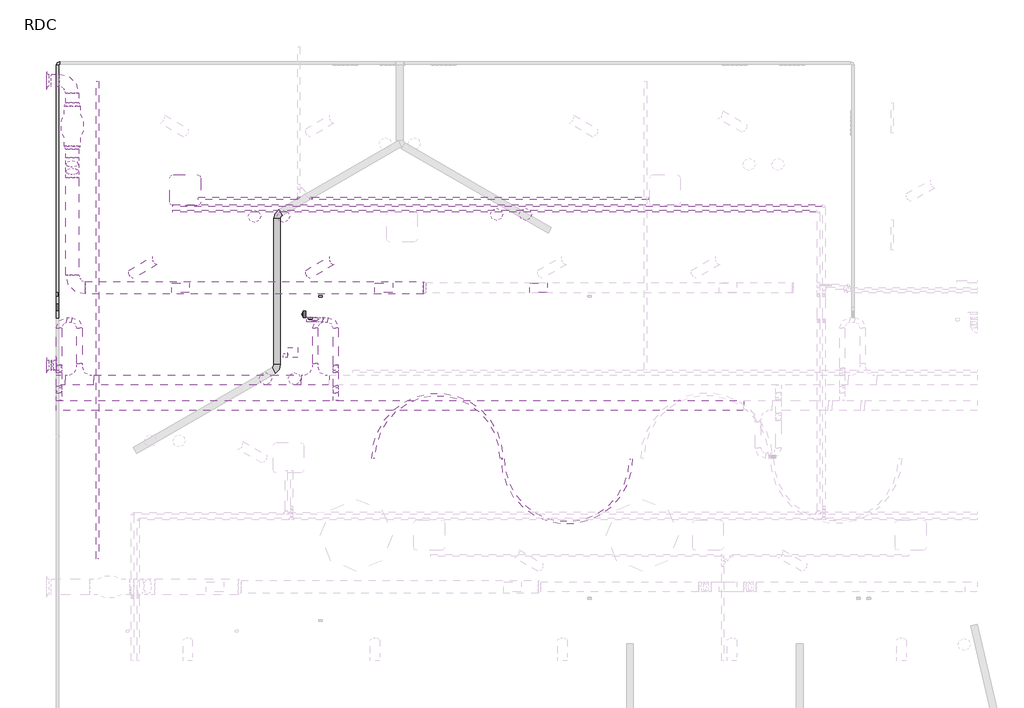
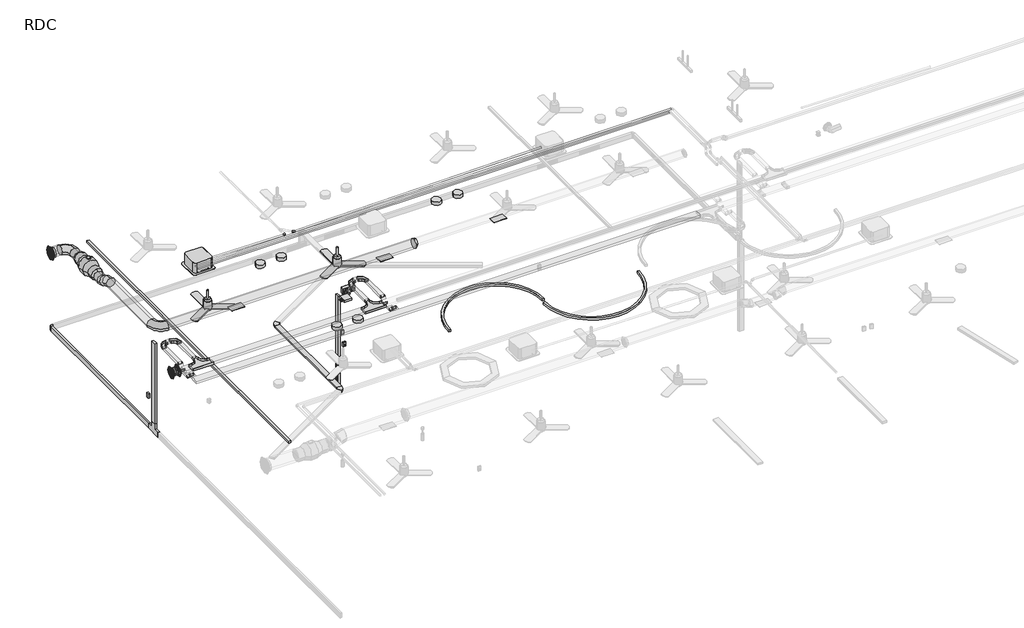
# One storey, part 3 of 15: 17 cable carrier segments, 14 cable carrier fittings, 14 proxies, 11 duct fittings, 11 duct segments, 11 light fixtures, 6 air terminals, 4 pipe segments, 3 other elements.
"""IFC4 building model written with IfcOpenShell, lengths in millimetres."""

from ifc_helpers import new_model, si_unit, point, frame, frame_2d, origin, origin_with_axes, place, context, project, spatial, polyline, circle_curve, trimmed, segment, composite_curve, outline, extrude, transform, mapped, element, save
from components import air_terminal_8fbfe4fd, air_terminal_f661baf0, air_terminal_83240a47, air_terminal_300x150_ce1732d7, alarm_ff25f4bb, electrical_fixtures_a85d9f51, electrical_fixtures_1c8db3b3, electrical_fixtures_b5335298, electrical_fixtures_3a4acf06, mechanical_equipment_63d25aae, mechanical_equipment_4a9d14a3, cassette_600x600_07ba985d, cable_carrier_fitting_150mm_radius_0ad93986, cable_carrier_fitting_150mm_radius_438d9341, standaard_2330e57b, standaard_15b901d2, standaard_b1635a4a, standaard_70577946, standaard_6054fbdd, standaard_b9184b4d, coude_circulaire_1_d_bb9ff7a8, coude_circulaire_1_d_a3c698fd, coude_rectangulaire_rayon_1_w_45743452, coude_rectangulaire_rayon_1_w_6ce379fa, standard_e141fede, transformation_ronde_longueur_standard_073085e4, transformation_ronde_longueur_standard_5c39a686, light_fixture_d6a2bba2, light_fixture_92202950, ai_luminaire_concept_s_angle_d93a71be, ai_luminaire_spot_downlight_a3_0014797d, plafond_a018df44, standard_715b0e56, standard_fb91f736

model = new_model("IFC4")

# Units and contexts
model_context = context("Model", 3, world=origin())
ifc_project = project(units=[si_unit("LENGTHUNIT", "METRE", prefix="MILLI")], contexts=[model_context])

# Site, building, storey
site = spatial("IfcSite", under=ifc_project)
building = spatial("IfcBuilding", under=site)
storey = spatial("IfcBuildingStorey", under=building, Name="RDC", Elevation=0.0)

# Air terminals
placement = place(None, origin())
air_terminal_shape = air_terminal_8fbfe4fd(model_context)
element("IfcAirTerminal", 1, ObjectType="AI_Bouche aération_Circulaire Soufflage : ø200 mm", at=placement, inside=storey, context=model_context, shape_type="MappedRepresentation", body=[
    mapped(air_terminal_shape, transform((6183.0055238, 8688.1987776, 2675.0), x_axis=(0.0, -1.0, 0.0), y_axis=(0.0, 0.0, -1.0), z_axis=(1.0, 0.0, 0.0))),
])
air_terminal_2_shape = air_terminal_f661baf0(model_context)
air_terminal_3_shape = air_terminal_83240a47(model_context)
element("IfcAirTerminal", 2, ObjectType="AI_Bouche aération_Circulaire Reprise : ø250 mm", at=placement, inside=storey, context=model_context, shape_type="MappedRepresentation", body=[
    mapped(air_terminal_2_shape, transform((6183.0055244, 14249.5897086, 2675.0), x_axis=(0.0, 0.0, 1.0), y_axis=(0.0, -1.0, 0.0), z_axis=(1.0, 0.0, 0.0))),
    mapped(air_terminal_3_shape, transform((6183.0055244, 14249.5897086, 2675.0), x_axis=(0.0, 0.0, 1.0), y_axis=(0.0, -1.0, 0.0), z_axis=(1.0, 0.0, 0.0))),
])
element("IfcAirTerminal", 3, ObjectType="AI_Bouche aération_Circulaire Extraction : ø200 mm", at=placement, inside=storey, context=model_context, shape_type="MappedRepresentation", body=[
    mapped(air_terminal_shape, transform((6363.0055219, 8688.1987776, 2675.0), x_axis=(0.0, 0.0, 1.0), y_axis=(0.0, 1.0, 0.0), z_axis=(-1.0, 0.0, 0.0))),
])
air_terminal_300x150_shape = air_terminal_300x150_ce1732d7(model_context)
element("IfcAirTerminal", 4, ObjectType="AI_Bouche aération_Grille de soufflage rectangulaire sur gaine : 300x150", at=placement, inside=storey, context=model_context, shape_type="MappedRepresentation", body=[
    mapped(air_terminal_300x150_shape, transform((8796.0685057, 10202.3417334, 2700.0), x_axis=(0.0, 1.0, 0.0), y_axis=(-1.0, 0.0, 0.0), z_axis=(0.0, 0.0, 1.0))),
])
element("IfcAirTerminal", 5, ObjectType="AI_Bouche aération_Grille de soufflage rectangulaire sur gaine : 300x150", at=placement, inside=storey, context=model_context, shape_type="MappedRepresentation", body=[
    mapped(air_terminal_300x150_shape, transform((15774.9639686, 10202.3417334, 2750.0), x_axis=(0.0, 1.0, 0.0), y_axis=(-1.0, 0.0, 0.0), z_axis=(0.0, 0.0, 1.0))),
])
element("IfcAirTerminal", 6, ObjectType="AI_Bouche aération_Grille de soufflage rectangulaire sur gaine : 300x150", at=placement, inside=storey, context=model_context, shape_type="MappedRepresentation", body=[
    mapped(air_terminal_300x150_shape, transform((12758.3677314, 10202.3417334, 2700.0), x_axis=(0.0, 1.0, 0.0), y_axis=(-1.0, 0.0, 0.0), z_axis=(0.0, 0.0, 1.0))),
])

# Alarm
alarm_shape = alarm_ff25f4bb(model_context)
element("IfcAlarm", 7, ObjectType="AI_Incendie_Alarme incendie : Diffuseur sonore", at=placement, inside=storey, context=model_context, shape_type="MappedRepresentation", body=[
    mapped(alarm_shape, transform((11418.6802318, 9619.3027165, 2529.5993522), x_axis=(-1.0, 0.0, 0.0), y_axis=(0.0, -1.0, 0.0), z_axis=(0.0, 0.0, 1.0))),
])

# Proxies
electrical_fixtures_shape = electrical_fixtures_a85d9f51(model_context)
element("IfcBuildingElementProxy", 8, Name="AI_Instal elec_Prise RJ45 : RJ 45 Murale", ObjectType="AI_Instal elec_Prise RJ45 : RJ 45 Murale", at=placement, inside=storey, context=model_context, shape_type="MappedRepresentation", body=[
    mapped(electrical_fixtures_shape, transform((11183.0661525, 9684.3027164, 150.0), x_axis=(0.0, -1.0, 0.0), y_axis=(1.0, 0.0, 0.0), z_axis=(0.0, 0.0, 1.0))),
])
element("IfcBuildingElementProxy", 9, Name="AI_Instal elec_Prise RJ45 : RJ 45 Murale", ObjectType="AI_Instal elec_Prise RJ45 : RJ 45 Murale", at=placement, inside=storey, context=model_context, shape_type="MappedRepresentation", body=[
    mapped(electrical_fixtures_shape, transform((11183.0661525, 9684.3027164, 235.0), x_axis=(0.0, -1.0, 0.0), y_axis=(1.0, 0.0, 0.0), z_axis=(0.0, 0.0, 1.0))),
])
electrical_fixtures_2_shape = electrical_fixtures_1c8db3b3(model_context)
element("IfcBuildingElementProxy", 10, Name="AI_Instal elec_PC 16A +T à 0,30m : PC 16A +T à 0,30m", ObjectType="AI_Instal elec_PC 16A +T à 0,30m : PC 16A +T à 0,30m", at=placement, inside=storey, context=model_context, shape_type="MappedRepresentation", body=[
    mapped(electrical_fixtures_2_shape, transform((11183.0661525, 9684.3027164, 575.0), x_axis=(0.0, -1.0, 0.0), y_axis=(1.0, 0.0, 0.0), z_axis=(0.0, 0.0, 1.0))),
])
element("IfcBuildingElementProxy", 11, Name="AI_Instal elec_PC 16A +T à 0,30m : PC 16A +T à 0,30m", ObjectType="AI_Instal elec_PC 16A +T à 0,30m : PC 16A +T à 0,30m", at=placement, inside=storey, context=model_context, shape_type="MappedRepresentation", body=[
    mapped(electrical_fixtures_2_shape, transform((11183.0661525, 9684.3027164, 490.0), x_axis=(0.0, -1.0, 0.0), y_axis=(1.0, 0.0, 0.0), z_axis=(0.0, 0.0, 1.0))),
])
element("IfcBuildingElementProxy", 12, Name="AI_Instal elec_Prise de courant 2P+T 16A ondulée : AI_Instal elec_Prise de courant 2P+T 16A ondulée", ObjectType="AI_Instal elec_Prise de courant 2P+T 16A ondulée : AI_Instal elec_Prise de courant 2P+T 16A ondulée", at=placement, inside=storey, context=model_context, shape_type="MappedRepresentation", body=[
    mapped(electrical_fixtures_2_shape, transform((11183.0661525, 9684.3027164, 405.0), x_axis=(0.0, -1.0, 0.0), y_axis=(1.0, 0.0, 0.0), z_axis=(0.0, 0.0, 1.0))),
])
element("IfcBuildingElementProxy", 13, Name="AI_Instal elec_Prise de courant 2P+T 16A ondulée : AI_Instal elec_Prise de courant 2P+T 16A ondulée", ObjectType="AI_Instal elec_Prise de courant 2P+T 16A ondulée : AI_Instal elec_Prise de courant 2P+T 16A ondulée", at=placement, inside=storey, context=model_context, shape_type="MappedRepresentation", body=[
    mapped(electrical_fixtures_2_shape, transform((11183.0661525, 9684.3027164, 320.0), x_axis=(0.0, -1.0, 0.0), y_axis=(1.0, 0.0, 0.0), z_axis=(0.0, 0.0, 1.0))),
])
electrical_fixtures_3_shape = electrical_fixtures_b5335298(model_context)
element("IfcBuildingElementProxy", 14, Name="AI_Instal elec_Prise RJ45 : RJ45 Plafonnière", ObjectType="AI_Instal elec_Prise RJ45 : RJ45 Plafonnière", at=placement, inside=storey, context=model_context, shape_type="MappedRepresentation", body=[
    mapped(electrical_fixtures_3_shape, transform((10838.1441218, 8835.5591373, 2980.0), x_axis=(-1.0, 0.0, 0.0), y_axis=(0.0, -1.0, 0.0), z_axis=(0.0, 0.0, 1.0))),
])
electrical_fixtures_4_shape = electrical_fixtures_3a4acf06(model_context)
element("IfcBuildingElementProxy", 15, Name="AI_Instal elec_Brasseur d'air : AI_Instal elec_Brasseur d'air", ObjectType="AI_Instal elec_Brasseur d'air : AI_Instal elec_Brasseur d'air", at=placement, inside=storey, context=model_context, shape_type="MappedRepresentation", body=[
    mapped(electrical_fixtures_4_shape, transform((11815.489218, 10773.1375381, 2500.0), x_axis=(1.0, 0.0, 0.0), y_axis=(0.0, 1.0, 0.0), z_axis=(0.0, 0.0, 1.0))),
])
element("IfcBuildingElementProxy", 16, Name="AI_Instal elec_Brasseur d'air : AI_Instal elec_Brasseur d'air", ObjectType="AI_Instal elec_Brasseur d'air : AI_Instal elec_Brasseur d'air", at=placement, inside=storey, context=model_context, shape_type="MappedRepresentation", body=[
    mapped(electrical_fixtures_4_shape, transform((8363.1634071, 10773.1375381, 2500.0), x_axis=(1.0, 0.0, 0.0), y_axis=(0.0, 1.0, 0.0), z_axis=(0.0, 0.0, 1.0))),
])
mechanical_equipment_shape = mechanical_equipment_63d25aae(model_context)
element("IfcBuildingElementProxy", 17, Name="AI_Eqpmt genie clim_Canalfast 315 : AI_Eqpmt genie clim_Canalfast 315", ObjectType="AI_Eqpmt genie clim_Canalfast 315 : AI_Eqpmt genie clim_Canalfast 315", at=placement, inside=storey, context=model_context, shape_type="MappedRepresentation", body=[
    mapped(mechanical_equipment_shape, transform((6679.0766079, 13360.3190675, 2675.0), x_axis=(0.0, -1.0, 0.0), y_axis=(1.0, 0.0, 0.0), z_axis=(0.0, 0.0, 1.0))),
])
mechanical_equipment_2_shape = mechanical_equipment_4a9d14a3(model_context)
element("IfcBuildingElementProxy", 18, Name="AI_Eqpmt genie clim_Commande murale Clim : Commande murale Clim", ObjectType="AI_Eqpmt genie clim_Commande murale Clim : Commande murale Clim", at=placement, inside=storey, context=model_context, shape_type="MappedRepresentation", body=[
    mapped(mechanical_equipment_2_shape, transform((11522.9752017, 10019.3027165, 1130.0), x_axis=(1.0, 0.0, 0.0), y_axis=(0.0, 1.0, 0.0), z_axis=(0.0, 0.0, 1.0))),
])
element("IfcBuildingElementProxy", 19, Name="AI_Eqpmt genie clim_Commande murale Clim : Commande murale Clim", ObjectType="AI_Eqpmt genie clim_Commande murale Clim : Commande murale Clim", at=placement, inside=storey, context=model_context, shape_type="MappedRepresentation", body=[
    mapped(mechanical_equipment_2_shape, transform((6363.0667618, 10074.9679544, 1130.0), x_axis=(0.0, -1.0, 0.0), y_axis=(1.0, 0.0, 0.0), z_axis=(0.0, 0.0, 1.0))),
])
element("IfcBuildingElementProxy", 20, Name="AI_Eqpmt genie clim_Commande murale Clim : Commande murale Clim", ObjectType="AI_Eqpmt genie clim_Commande murale Clim : Commande murale Clim", at=placement, inside=storey, context=model_context, shape_type="MappedRepresentation", body=[
    mapped(mechanical_equipment_2_shape, transform((11323.0358355, 9619.3027164, 1130.0), x_axis=(-1.0, 0.0, 0.0), y_axis=(0.0, -1.0, 0.0), z_axis=(0.0, 0.0, 1.0))),
])
cassette_600x600_shape = cassette_600x600_07ba985d(model_context)
element("IfcBuildingElementProxy", 21, Name="AI_Eqpmt genie clim_Cassette plafonnière : Cassette 600x600", ObjectType="AI_Eqpmt genie clim_Cassette plafonnière : Cassette 600x600", at=placement, inside=storey, context=model_context, shape_type="MappedRepresentation", body=[
    mapped(cassette_600x600_shape, transform((8017.2942225, 12897.391148, 2680.0), x_axis=(1.0, 0.0, 0.0), y_axis=(0.0, 1.0, 0.0), z_axis=(0.0, 0.0, 1.0))),
])

# Cable carrier fittings
cable_carrier_fitting_150mm_radius_shape = cable_carrier_fitting_150mm_radius_0ad93986(model_context)
element("IfcCableCarrierFitting", 22, ObjectType="AI_Raccord cdc_Té : 150mm Radius", at=placement, inside=storey, context=model_context, shape_type="MappedRepresentation", body=[
    mapped(cable_carrier_fitting_150mm_radius_shape, transform((6821.676602, 8402.2308907, 2856.9968882), x_axis=(-1.0, 0.0, 0.0), y_axis=(0.0, -1.0, 0.0), z_axis=(0.0, 0.0, 1.0))),
])
cable_carrier_fitting_150mm_radius_2_shape = cable_carrier_fitting_150mm_radius_438d9341(model_context)
element("IfcCableCarrierFitting", 23, ObjectType="AI_Raccord cdc_Té : 150mm Radius", at=placement, inside=storey, context=model_context, shape_type="MappedRepresentation", body=[
    mapped(cable_carrier_fitting_150mm_radius_2_shape, transform((11418.6802318, 8402.2308907, 2856.9968882), x_axis=(1.0, 0.0, 0.0), y_axis=(0.0, 1.0, 0.0), z_axis=(0.0, 0.0, 1.0))),
])
standaard_shape = standaard_2330e57b(model_context)
element("IfcCableCarrierFitting", 24, ObjectType="AI_Raccord cdc_Coude desencdant : standaard", at=placement, inside=storey, context=model_context, shape_type="MappedRepresentation", body=[
    mapped(standaard_shape, transform((6421.676602, 8678.568422, 2856.9968882), x_axis=(0.0, -1.0, 0.0), y_axis=(0.0, 0.0, -1.0), z_axis=(1.0, 0.0, 0.0))),
])
element("IfcCableCarrierFitting", 25, ObjectType="AI_Raccord cdc_Coude desencdant : standaard", at=placement, inside=storey, context=model_context, shape_type="MappedRepresentation", body=[
    mapped(standaard_shape, transform((6421.676602, 8159.3743728, 2856.9968882), x_axis=(0.0, -0.7071067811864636, 0.7071067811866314), y_axis=(0.0, -0.7071067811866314, -0.7071067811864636), z_axis=(1.0, 0.0, 0.0))),
])
element("IfcCableCarrierFitting", 26, ObjectType="AI_Raccord cdc_Coude desencdant : standaard", at=placement, inside=storey, context=model_context, shape_type="MappedRepresentation", body=[
    mapped(standaard_shape, transform((11818.6802318, 8159.3743728, 2856.9968882), x_axis=(0.0, -0.7071067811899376, 0.7071067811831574), y_axis=(0.0, -0.7071067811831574, -0.7071067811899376), z_axis=(1.0, 0.0, 0.0))),
])
standaard_2_shape = standaard_15b901d2(model_context)
element("IfcCableCarrierFitting", 27, ObjectType="AI_Raccord cdc_Coude montant : standaard", at=placement, inside=storey, context=model_context, shape_type="MappedRepresentation", body=[
    mapped(standaard_2_shape, transform((6421.676602, 8565.431337, 2743.8598032), x_axis=(0.0, -0.7071067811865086, -0.7071067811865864), y_axis=(0.0, -0.7071067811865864, 0.7071067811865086), z_axis=(-1.0, 0.0, 0.0))),
])
element("IfcCableCarrierFitting", 28, ObjectType="AI_Raccord cdc_Coude montant : standaard", at=placement, inside=storey, context=model_context, shape_type="MappedRepresentation", body=[
    mapped(standaard_2_shape, transform((6421.676602, 8272.5114578, 2743.8598032), x_axis=(0.0, -1.0, 0.0), y_axis=(0.0, 0.0, 1.0), z_axis=(-1.0, 0.0, 0.0))),
])
standaard_3_shape = standaard_b1635a4a(model_context)
element("IfcCableCarrierFitting", 29, ObjectType="AI_Raccord cdc_Coude horizontal rayon court : standaard", at=placement, inside=storey, context=model_context, shape_type="MappedRepresentation", body=[
    mapped(standaard_3_shape, transform((6421.676602, 9569.3027165, 2856.9968882), x_axis=(-1.0, 0.0, 0.0), y_axis=(0.0, -1.0, 0.0), z_axis=(0.0, 0.0, 1.0))),
])
element("IfcCableCarrierFitting", 30, ObjectType="AI_Raccord cdc_Coude horizontal rayon court : standaard", at=placement, inside=storey, context=model_context, shape_type="MappedRepresentation", body=[
    mapped(standaard_3_shape, transform((6821.676602, 9569.3027165, 2856.9968882), x_axis=(0.0, 1.0, 0.0), y_axis=(-1.0, 0.0, 0.0), z_axis=(0.0, 0.0, 1.0))),
])
standaard_4_shape = standaard_70577946(model_context)
element("IfcCableCarrierFitting", 31, ObjectType="AI_Raccord cdc_Coude desencdant : standaard", at=placement, inside=storey, context=model_context, shape_type="MappedRepresentation", body=[
    mapped(standaard_4_shape, transform((11818.6802318, 8678.568422, 2856.9968882), x_axis=(0.0, -1.0, 0.0), y_axis=(0.0, 0.0, 1.0), z_axis=(-1.0, 0.0, 0.0))),
])
standaard_5_shape = standaard_6054fbdd(model_context)
element("IfcCableCarrierFitting", 32, ObjectType="AI_Raccord cdc_Coude montant : standaard", at=placement, inside=storey, context=model_context, shape_type="MappedRepresentation", body=[
    mapped(standaard_5_shape, transform((11818.6802318, 8565.431337, 2743.8598032), x_axis=(0.0, -0.7071067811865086, -0.7071067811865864), y_axis=(0.0, 0.7071067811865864, -0.7071067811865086), z_axis=(1.0, 0.0, 0.0))),
])
element("IfcCableCarrierFitting", 33, ObjectType="AI_Raccord cdc_Coude montant : standaard", at=placement, inside=storey, context=model_context, shape_type="MappedRepresentation", body=[
    mapped(standaard_5_shape, transform((11818.6802318, 8272.5114578, 2743.8598032), x_axis=(0.0, -1.0, 0.0), y_axis=(0.0, 0.0, -1.0), z_axis=(1.0, 0.0, 0.0))),
])
standaard_6_shape = standaard_b9184b4d(model_context)
element("IfcCableCarrierFitting", 34, ObjectType="AI_Raccord cdc_Coude horizontal rayon court : standaard", at=placement, inside=storey, context=model_context, shape_type="MappedRepresentation", body=[
    mapped(standaard_6_shape, transform((11818.6802318, 9569.3027165, 2856.9968882), x_axis=(1.0, 0.0, 0.0), y_axis=(0.0, 1.0, 0.0), z_axis=(0.0, 0.0, 1.0))),
])
element("IfcCableCarrierFitting", 35, ObjectType="AI_Raccord cdc_Coude horizontal rayon court : standaard", at=placement, inside=storey, context=model_context, shape_type="MappedRepresentation", body=[
    mapped(standaard_6_shape, transform((11418.6802318, 9569.3027165, 2856.9968882), x_axis=(0.0, 1.0, 0.0), y_axis=(-1.0, 0.0, 0.0), z_axis=(0.0, 0.0, 1.0))),
])

# Cable carrier segments
element("IfcCableCarrierSegment", 36, ObjectType="Par défaut", at=placement, inside=storey, context=model_context, shape_type="SweptSolid", body=[
    extrude(outline(polyline([(6546.676602, 8502.2308907), (6546.676602, 8302.2308907), (6363.0055219, 8302.2308907), (6363.0055219, 8502.2308907), (6546.676602, 8502.2308907)])), frame((0.0, 0.0, 2826.9968882), z_axis=(0.0, 0.0, 1.0), x_axis=(1.0, 0.0, 0.0)), (0.0, 0.0, 1.0), 60.0),
])
element("IfcCableCarrierSegment", 37, ObjectType="Par défaut", at=placement, inside=storey, context=model_context, shape_type="SweptSolid", body=[
    extrude(outline(polyline([(19787.4237892, 8002.2308907), (19787.4237892, 7802.2308907), (6363.0055219, 7802.2308907), (6363.0055219, 8002.2308907), (19787.4237892, 8002.2308907)])), frame((0.0, 0.0, 2826.9968882), z_axis=(0.0, 0.0, 1.0), x_axis=(1.0, 0.0, 0.0)), (0.0, 0.0, 1.0), 60.0),
])
element("IfcCableCarrierSegment", 38, ObjectType="Par défaut", at=placement, inside=storey, context=model_context, shape_type="SweptSolid", body=[
    extrude(outline(polyline([(6771.676602, 9418.3027165), (6871.676602, 9418.3027165), (6871.676602, 8727.2308907), (6771.676602, 8727.2308907), (6771.676602, 9418.3027165)])), frame((0.0, 0.0, 2826.9968882), z_axis=(0.0, 0.0, 1.0), x_axis=(1.0, 0.0, 0.0)), (0.0, 0.0, 1.0), 60.0),
])
element("IfcCableCarrierSegment", 39, ObjectType="Par défaut", at=placement, inside=storey, context=model_context, shape_type="SweptSolid", body=[
    extrude(outline(polyline([(6371.676602, 9418.3027165), (6471.676602, 9418.3027165), (6471.676602, 8692.4090424), (6371.676602, 8692.4090424), (6371.676602, 9418.3027165)])), frame((0.0, 0.0, 2826.9968882), z_axis=(0.0, 0.0, 1.0), x_axis=(1.0, 0.0, 0.0)), (0.0, 0.0, 1.0), 60.0),
])
element("IfcCableCarrierSegment", 40, ObjectType="Par défaut", at=placement, inside=storey, context=model_context, shape_type="SweptSolid", body=[
    extrude(outline(polyline([(-50.0, -28.3095189), (50.0, -28.3095189), (50.0, -88.3095189), (-50.0, -88.3095189), (-50.0, -28.3095189)])), frame((6421.676602, 8616.4491898, 2712.4155436), z_axis=(0.0, 0.7071067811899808, 0.7071067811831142), x_axis=(1.0, 0.0, 0.0)), (0.0, 0.0, 1.0), 132.3187591),
])
element("IfcCableCarrierSegment", 41, ObjectType="Par défaut", at=placement, inside=storey, context=model_context, shape_type="SweptSolid", body=[
    extrude(outline(polyline([(6371.676602, 8551.5907166), (6471.676602, 8551.5907166), (6471.676602, 8286.3520782), (6371.676602, 8286.3520782), (6371.676602, 8551.5907166)])), frame((0.0, 0.0, 2713.8598032), z_axis=(0.0, 0.0, 1.0), x_axis=(1.0, 0.0, 0.0)), (0.0, 0.0, 1.0), 60.0),
])
element("IfcCableCarrierSegment", 42, ObjectType="Par défaut", at=placement, inside=storey, context=model_context, shape_type="SweptSolid", body=[
    extrude(outline(polyline([(0.0, -100.0), (0.0, 0.0), (132.3187591, 0.0), (132.3187591, -100.0), (0.0, -100.0)])), frame((6471.676602, 8241.5114578, 2732.4333964), z_axis=(0.0, 0.7071067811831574, 0.7071067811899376), x_axis=(0.0, -0.7071067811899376, 0.7071067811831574)), (0.0, 0.0, 1.0), 60.0),
])
element("IfcCableCarrierSegment", 43, ObjectType="Par défaut", at=placement, inside=storey, context=model_context, shape_type="SweptSolid", body=[
    extrude(outline(polyline([(6371.676602, 8145.5337524), (6471.676602, 8145.5337524), (6471.676602, 8002.2308907), (6371.676602, 8002.2308907), (6371.676602, 8145.5337524)])), frame((0.0, 0.0, 2826.9968882), z_axis=(0.0, 0.0, 1.0), x_axis=(1.0, 0.0, 0.0)), (0.0, 0.0, 1.0), 60.0),
])
element("IfcCableCarrierSegment", 44, ObjectType="Par défaut", at=placement, inside=storey, context=model_context, shape_type="SweptSolid", body=[
    extrude(outline(polyline([(6572.676602, 9519.3027165), (6572.676602, 9619.3027165), (6670.676602, 9619.3027165), (6670.676602, 9519.3027165), (6572.676602, 9519.3027165)])), frame((0.0, 0.0, 2826.9968882), z_axis=(0.0, 0.0, 1.0), x_axis=(1.0, 0.0, 0.0)), (0.0, 0.0, 1.0), 60.0),
])
element("IfcCableCarrierSegment", 45, ObjectType="Par défaut", at=placement, inside=storey, context=model_context, shape_type="SweptSolid", body=[
    extrude(outline(polyline([(7096.676602, 8302.2308907), (7096.676602, 8502.2308907), (11143.6802318, 8502.2308907), (11143.6802318, 8302.2308907), (7096.676602, 8302.2308907)])), frame((0.0, 0.0, 2826.9968882), z_axis=(0.0, 0.0, 1.0), x_axis=(1.0, 0.0, 0.0)), (0.0, 0.0, 1.0), 60.0),
])
element("IfcCableCarrierSegment", 46, ObjectType="Par défaut", at=placement, inside=storey, context=model_context, shape_type="SweptSolid", body=[
    extrude(outline(polyline([(11368.6802318, 9418.3027165), (11468.6802318, 9418.3027165), (11468.6802318, 8727.2308907), (11368.6802318, 8727.2308907), (11368.6802318, 9418.3027165)])), frame((0.0, 0.0, 2826.9968882), z_axis=(0.0, 0.0, 1.0), x_axis=(1.0, 0.0, 0.0)), (0.0, 0.0, 1.0), 60.0),
])
element("IfcCableCarrierSegment", 47, ObjectType="Par défaut", at=placement, inside=storey, context=model_context, shape_type="SweptSolid", body=[
    extrude(outline(polyline([(11768.6802318, 9418.3027165), (11868.6802318, 9418.3027165), (11868.6802318, 8692.4090424), (11768.6802318, 8692.4090424), (11768.6802318, 9418.3027165)])), frame((0.0, 0.0, 2826.9968882), z_axis=(0.0, 0.0, 1.0), x_axis=(1.0, 0.0, 0.0)), (0.0, 0.0, 1.0), 60.0),
])
element("IfcCableCarrierSegment", 48, ObjectType="Par défaut", at=placement, inside=storey, context=model_context, shape_type="SweptSolid", body=[
    extrude(outline(polyline([(-50.0, -28.3095189), (50.0, -28.3095189), (50.0, -88.3095189), (-50.0, -88.3095189), (-50.0, -28.3095189)])), frame((11818.6802318, 8616.4491898, 2712.4155436), z_axis=(0.0, 0.7071067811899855, 0.7071067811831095), x_axis=(1.0, 0.0, 0.0)), (0.0, 0.0, 1.0), 132.3187591),
])
element("IfcCableCarrierSegment", 49, ObjectType="Par défaut", at=placement, inside=storey, context=model_context, shape_type="SweptSolid", body=[
    extrude(outline(polyline([(11768.6802318, 8551.5907166), (11868.6802318, 8551.5907166), (11868.6802318, 8286.3520782), (11768.6802318, 8286.3520782), (11768.6802318, 8551.5907166)])), frame((0.0, 0.0, 2713.8598032), z_axis=(0.0, 0.0, 1.0), x_axis=(1.0, 0.0, 0.0)), (0.0, 0.0, 1.0), 60.0),
])
element("IfcCableCarrierSegment", 50, ObjectType="Par défaut", at=placement, inside=storey, context=model_context, shape_type="SweptSolid", body=[
    extrude(outline(polyline([(0.0, -100.0), (0.0, 0.0), (132.3187591, 0.0), (132.3187591, -100.0), (0.0, -100.0)])), frame((11868.6802318, 8241.5114578, 2732.4333964), z_axis=(0.0, 0.7071067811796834, 0.7071067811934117), x_axis=(0.0, -0.7071067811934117, 0.7071067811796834)), (0.0, 0.0, 1.0), 60.0),
])
element("IfcCableCarrierSegment", 51, ObjectType="Par défaut", at=placement, inside=storey, context=model_context, shape_type="SweptSolid", body=[
    extrude(outline(polyline([(11768.6802318, 8145.5337524), (11868.6802318, 8145.5337524), (11868.6802318, 8002.2308907), (11768.6802318, 8002.2308907), (11768.6802318, 8145.5337524)])), frame((0.0, 0.0, 2826.9968882), z_axis=(0.0, 0.0, 1.0), x_axis=(1.0, 0.0, 0.0)), (0.0, 0.0, 1.0), 60.0),
])
element("IfcCableCarrierSegment", 52, ObjectType="Par défaut", at=placement, inside=storey, context=model_context, shape_type="SweptSolid", body=[
    extrude(outline(polyline([(11667.6802318, 9619.3027165), (11667.6802318, 9519.3027165), (11569.6802318, 9519.3027165), (11569.6802318, 9619.3027165), (11667.6802318, 9619.3027165)])), frame((0.0, 0.0, 2826.9968882), z_axis=(0.0, 0.0, 1.0), x_axis=(1.0, 0.0, 0.0)), (0.0, 0.0, 1.0), 60.0),
])

# Duct fittings
coude_circulaire_1_d_shape = coude_circulaire_1_d_bb9ff7a8(model_context)
element("IfcDuctFitting", 53, ObjectType="Coude circulaire : 1 D", at=placement, inside=storey, context=model_context, shape_type="MappedRepresentation", body=[
    mapped(coude_circulaire_1_d_shape, transform((6679.0766079, 12415.7696038, 2825.0), x_axis=(0.0, 1.0, 0.0), y_axis=(0.0, 0.0, -1.0), z_axis=(-1.0, 0.0, 0.0))),
])
element("IfcDuctFitting", 54, ObjectType="Coude circulaire : 1 D", at=placement, inside=storey, context=model_context, shape_type="MappedRepresentation", body=[
    mapped(coude_circulaire_1_d_shape, transform((6679.0766079, 12675.577225, 2675.0), x_axis=(0.0, 0.8660254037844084, -0.5000000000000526), y_axis=(0.0, 0.5000000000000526, 0.8660254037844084), z_axis=(1.0, 0.0, 0.0))),
])
coude_circulaire_1_d_2_shape = coude_circulaire_1_d_a3c698fd(model_context)
element("IfcDuctFitting", 55, ObjectType="Coude circulaire : 1 D", at=placement, inside=storey, context=model_context, shape_type="MappedRepresentation", body=[
    mapped(coude_circulaire_1_d_2_shape, transform((6679.0766079, 10202.3417334, 2825.0), x_axis=(0.0, -1.0, 0.0), y_axis=(1.0, 0.0, 0.0), z_axis=(0.0, 0.0, 1.0))),
])
element("IfcDuctFitting", 56, ObjectType="Coude circulaire : 1 D", at=placement, inside=storey, context=model_context, shape_type="MappedRepresentation", body=[
    mapped(coude_circulaire_1_d_2_shape, transform((6679.0766079, 14249.5897086, 2675.0), x_axis=(0.0, 1.0, 0.0), y_axis=(-1.0, 0.0, 0.0), z_axis=(0.0, 0.0, 1.0))),
])
coude_rectangulaire_rayon_1_w_shape = coude_rectangulaire_rayon_1_w_45743452(model_context)
element("IfcDuctFitting", 57, ObjectType="Coude rectangulaire - Rayon : 1 W", at=placement, inside=storey, context=model_context, shape_type="MappedRepresentation", body=[
    mapped(coude_rectangulaire_rayon_1_w_shape, transform((6388.0055248, 14594.3027103, 300.0), x_axis=(-1.0, 0.0, 0.0), y_axis=(0.0, -1.0, 0.0), z_axis=(0.0, 0.0, 1.0))),
])
coude_rectangulaire_rayon_1_w_2_shape = coude_rectangulaire_rayon_1_w_6ce379fa(model_context)
element("IfcDuctFitting", 58, ObjectType="Coude rectangulaire - Rayon : 1 W", at=placement, inside=storey, context=model_context, shape_type="MappedRepresentation", body=[
    mapped(coude_rectangulaire_rayon_1_w_2_shape, transform((10675.0832822, 11632.1748711, 676.7942343), x_axis=(-0.8660254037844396, -0.49999999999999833, 0.0), y_axis=(0.49999999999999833, -0.8660254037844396, 0.0), z_axis=(0.0, 0.0, 1.0))),
])
element("IfcDuctFitting", 59, ObjectType="Coude rectangulaire - Rayon : 1 W", at=placement, inside=storey, context=model_context, shape_type="MappedRepresentation", body=[
    mapped(coude_rectangulaire_rayon_1_w_2_shape, transform((10675.0832822, 8625.2803581, 676.7942343), x_axis=(0.8660254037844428, 0.4999999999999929, 0.0), y_axis=(-0.4999999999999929, 0.8660254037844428, 0.0), z_axis=(0.0, 0.0, 1.0))),
])
standard_shape = standard_e141fede(model_context)
element("IfcDuctFitting", 60, ObjectType="Té de réduction rectangulaire - DTL : Standard", at=placement, inside=storey, context=model_context, shape_type="MappedRepresentation", body=[
    mapped(standard_shape, transform((6388.0055248, 9819.3027165, 300.0), x_axis=(0.0, 1.0, 0.0), y_axis=(0.0, 0.0, -1.0), z_axis=(-1.0, 0.0, 0.0))),
])
transformation_ronde_longueur_standard_shape = transformation_ronde_longueur_standard_073085e4(model_context)
element("IfcDuctFitting", 61, ObjectType="Transformation ronde - Longueur : Standard", at=placement, inside=storey, context=model_context, shape_type="MappedRepresentation", body=[
    mapped(transformation_ronde_longueur_standard_shape, transform((13530.5320862, 10202.3417334, 2825.0), x_axis=(1.0, 0.0, 0.0), y_axis=(0.0, 1.0, 0.0), z_axis=(0.0, 0.0, 1.0))),
])
transformation_ronde_longueur_standard_2_shape = transformation_ronde_longueur_standard_5c39a686(model_context)
element("IfcDuctFitting", 62, ObjectType="Transformation ronde - Longueur : Standard", at=placement, inside=storey, context=model_context, shape_type="MappedRepresentation", body=[
    mapped(transformation_ronde_longueur_standard_2_shape, transform((6679.0766079, 12905.3190675, 2675.0), x_axis=(0.0, 1.0, 0.0), y_axis=(-1.0, 0.0, 0.0), z_axis=(0.0, 0.0, 1.0))),
])
element("IfcDuctFitting", 63, ObjectType="Transformation ronde - Longueur : Standard", at=placement, inside=storey, context=model_context, shape_type="MappedRepresentation", body=[
    mapped(transformation_ronde_longueur_standard_2_shape, transform((6679.0766079, 13815.3190675, 2675.0), x_axis=(0.0, -1.0, 0.0), y_axis=(1.0, 0.0, 0.0), z_axis=(0.0, 0.0, 1.0))),
])

# Duct segments
element("IfcDuctSegment", 64, ObjectType="Circulaire - Té", at=placement, inside=storey, context=model_context, shape_type="SweptSolid", body=[
    extrude(outline(composite_curve([segment(trimmed(circle_curve(frame_2d((14249.5897086, 2675.0)), 125.0), [point((14124.5897086, 2675.0))], [point((14249.5897086, 2800.0))], False, "CARTESIAN"), True, "CONTINUOUS"), segment(trimmed(circle_curve(frame_2d((14249.5897086, 2675.0)), 125.0), [point((14249.5897086, 2800.0))], [point((14374.5897086, 2675.0))], False, "CARTESIAN"), True, "CONTINUOUS"), segment(trimmed(circle_curve(frame_2d((14249.5897086, 2675.0)), 125.0), [point((14374.5897086, 2675.0))], [point((14249.5897086, 2550.0))], False, "CARTESIAN"), True, "CONTINUOUS"), segment(trimmed(circle_curve(frame_2d((14249.5897086, 2675.0)), 125.0), [point((14249.5897086, 2550.0))], [point((14124.5897086, 2675.0))], False, "CARTESIAN"), True, "CONTINUOUS")], self_intersect=False)), frame((6269.6055244, 0.0, 0.0), z_axis=(1.0, 0.0, 0.0), x_axis=(0.0, 1.0, 0.0)), (0.0, 0.0, 1.0), 159.4710835),
])
element("IfcDuctSegment", 65, ObjectType="Circulaire - Té", at=placement, inside=storey, context=model_context, shape_type="SweptSolid", body=[
    extrude(outline(composite_curve([segment(trimmed(circle_curve(frame_2d((2675.0, 6679.0766079)), 125.0), [point((2675.0, 6804.0766079))], [point((2800.0, 6679.0766079))], False, "CARTESIAN"), True, "CONTINUOUS"), segment(trimmed(circle_curve(frame_2d((2675.0, 6679.0766079)), 125.0), [point((2800.0, 6679.0766079))], [point((2675.0, 6554.0766079))], False, "CARTESIAN"), True, "CONTINUOUS"), segment(trimmed(circle_curve(frame_2d((2675.0, 6679.0766079)), 125.0), [point((2675.0, 6554.0766079))], [point((2550.0, 6679.0766079))], False, "CARTESIAN"), True, "CONTINUOUS"), segment(trimmed(circle_curve(frame_2d((2675.0, 6679.0766079)), 125.0), [point((2550.0, 6679.0766079))], [point((2675.0, 6804.0766079))], False, "CARTESIAN"), True, "CONTINUOUS")], self_intersect=False)), frame((0.0, 12742.5645231, 0.0), z_axis=(0.0, 1.0, 0.0), x_axis=(0.0, 0.0, 1.0)), (0.0, 0.0, 1.0), 162.7545444),
])
element("IfcDuctSegment", 66, ObjectType="Circulaire - Té", at=placement, inside=storey, context=model_context, shape_type="SweptSolid", body=[
    extrude(outline(composite_curve([segment(trimmed(circle_curve(frame_2d((2825.0, 6679.0766079)), 125.0), [point((2825.0, 6804.0766079))], [point((2950.0, 6679.0766079))], False, "CARTESIAN"), True, "CONTINUOUS"), segment(trimmed(circle_curve(frame_2d((2825.0, 6679.0766079)), 125.0), [point((2950.0, 6679.0766079))], [point((2825.0, 6554.0766079))], False, "CARTESIAN"), True, "CONTINUOUS"), segment(trimmed(circle_curve(frame_2d((2825.0, 6679.0766079)), 125.0), [point((2825.0, 6554.0766079))], [point((2700.0, 6679.0766079))], False, "CARTESIAN"), True, "CONTINUOUS"), segment(trimmed(circle_curve(frame_2d((2825.0, 6679.0766079)), 125.0), [point((2700.0, 6679.0766079))], [point((2825.0, 6804.0766079))], False, "CARTESIAN"), True, "CONTINUOUS")], self_intersect=False)), frame((0.0, 10452.3417334, 0.0), z_axis=(0.0, 1.0, 0.0), x_axis=(0.0, 0.0, 1.0)), (0.0, 0.0, 1.0), 1896.4405723),
])
element("IfcDuctSegment", 67, ObjectType="Circulaire - Té", at=placement, inside=storey, context=model_context, shape_type="SweptSolid", body=[
    extrude(outline(composite_curve([segment(trimmed(circle_curve(frame_2d((10202.3417334, 2825.0)), 125.0), [point((10077.3417334, 2825.0))], [point((10202.3417334, 2950.0))], False, "CARTESIAN"), True, "CONTINUOUS"), segment(trimmed(circle_curve(frame_2d((10202.3417334, 2825.0)), 125.0), [point((10202.3417334, 2950.0))], [point((10327.3417334, 2825.0))], False, "CARTESIAN"), True, "CONTINUOUS"), segment(trimmed(circle_curve(frame_2d((10202.3417334, 2825.0)), 125.0), [point((10327.3417334, 2825.0))], [point((10202.3417334, 2700.0))], False, "CARTESIAN"), True, "CONTINUOUS"), segment(trimmed(circle_curve(frame_2d((10202.3417334, 2825.0)), 125.0), [point((10202.3417334, 2700.0))], [point((10077.3417334, 2825.0))], False, "CARTESIAN"), True, "CONTINUOUS")], self_intersect=False)), frame((6929.0766079, 0.0, 0.0), z_axis=(1.0, 0.0, 0.0), x_axis=(0.0, 1.0, 0.0)), (0.0, 0.0, 1.0), 6601.4554783),
])
element("IfcDuctSegment", 68, ObjectType="Circulaire - Té", at=placement, inside=storey, context=model_context, shape_type="SweptSolid", body=[
    extrude(outline(composite_curve([segment(trimmed(circle_curve(frame_2d((0.0, -124.9999999)), 125.0), [point((125.0, -124.9999999))], [point((0.0, -250.0))], False, "CARTESIAN"), True, "CONTINUOUS"), segment(trimmed(circle_curve(frame_2d((0.0, -124.9999999)), 125.0), [point((0.0, -250.0))], [point((-125.0, -124.9999999))], False, "CARTESIAN"), True, "CONTINUOUS"), segment(trimmed(circle_curve(frame_2d((0.0, -124.9999999)), 125.0), [point((-125.0, -124.9999999))], [point((0.0, 0.0))], False, "CARTESIAN"), True, "CONTINUOUS"), segment(trimmed(circle_curve(frame_2d((0.0, -124.9999999)), 125.0), [point((0.0, 0.0))], [point((125.0, -124.9999999))], False, "CARTESIAN"), True, "CONTINUOUS")], self_intersect=False)), frame((6679.0766079, 12680.0645231, 2816.7468245), z_axis=(0.0, -0.8660254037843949, 0.500000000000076), x_axis=(1.0, 0.0, 0.0)), (0.0, 0.0, 1.0), 166.0254038),
])
element("IfcDuctSegment", 69, ObjectType="Circulaire - Té", at=placement, inside=storey, context=model_context, shape_type="SweptSolid", body=[
    extrude(outline(composite_curve([segment(trimmed(circle_curve(frame_2d((2675.0, 6679.0766079)), 125.0), [point((2675.0, 6554.0766079))], [point((2550.0, 6679.0766079))], False, "CARTESIAN"), True, "CONTINUOUS"), segment(trimmed(circle_curve(frame_2d((2675.0, 6679.0766079)), 125.0), [point((2550.0, 6679.0766079))], [point((2675.0, 6804.0766079))], False, "CARTESIAN"), True, "CONTINUOUS"), segment(trimmed(circle_curve(frame_2d((2675.0, 6679.0766079)), 125.0), [point((2675.0, 6804.0766079))], [point((2800.0, 6679.0766079))], False, "CARTESIAN"), True, "CONTINUOUS"), segment(trimmed(circle_curve(frame_2d((2675.0, 6679.0766079)), 125.0), [point((2800.0, 6679.0766079))], [point((2675.0, 6554.0766079))], False, "CARTESIAN"), True, "CONTINUOUS")], self_intersect=False)), frame((0.0, 13815.3190675, 0.0), z_axis=(0.0, 1.0, 0.0), x_axis=(0.0, 0.0, 1.0)), (0.0, 0.0, 1.0), 184.2706412),
])
element("IfcDuctSegment", 70, ObjectType="Circulaire - Té", at=placement, inside=storey, context=model_context, shape_type="SweptSolid", body=[
    extrude(outline(composite_curve([segment(trimmed(circle_curve(frame_2d((8688.1987776, 2675.0)), 100.0), [point((8788.1987776, 2675.0))], [point((8688.1987776, 2575.0))], False, "CARTESIAN"), True, "CONTINUOUS"), segment(trimmed(circle_curve(frame_2d((8688.1987776, 2675.0)), 100.0), [point((8688.1987776, 2575.0))], [point((8588.1987776, 2675.0))], False, "CARTESIAN"), True, "CONTINUOUS"), segment(trimmed(circle_curve(frame_2d((8688.1987776, 2675.0)), 100.0), [point((8588.1987776, 2675.0))], [point((8688.1987776, 2775.0))], False, "CARTESIAN"), True, "CONTINUOUS"), segment(trimmed(circle_curve(frame_2d((8688.1987776, 2675.0)), 100.0), [point((8688.1987776, 2775.0))], [point((8788.1987776, 2675.0))], False, "CARTESIAN"), True, "CONTINUOUS")], self_intersect=False)), frame((6269.6055238, 0.0, 0.0), z_axis=(1.0, 0.0, 0.0), x_axis=(0.0, 1.0, 0.0)), (0.0, 0.0, 1.0), 6.7999982),
])
element("IfcDuctSegment", 71, ObjectType="Goulotte", at=placement, inside=storey, context=model_context, shape_type="SweptSolid", body=[
    extrude(outline(polyline([(6363.0055248, 14544.3027103), (6413.0055248, 14544.3027103), (6413.0055248, 10034.3027165), (6363.0055248, 10034.3027165), (6363.0055248, 14544.3027103)])), frame((0.0, 0.0, 235.0), z_axis=(0.0, 0.0, 1.0), x_axis=(1.0, 0.0, 0.0)), (0.0, 0.0, 1.0), 130.0),
])
element("IfcDuctSegment", 72, ObjectType="Goulotte", at=placement, inside=storey, context=model_context, shape_type="SweptSolid", body=[
    extrude(outline(polyline([(6363.0055248, 9884.3027165), (6413.0055248, 9884.3027165), (6413.0055248, 9754.3027165), (6363.0055248, 9754.3027165), (6363.0055248, 9884.3027165)])), frame((0.0, 0.0, 515.0), z_axis=(0.0, 0.0, 1.0), x_axis=(1.0, 0.0, 0.0)), (0.0, 0.0, 1.0), 2265.0),
])
element("IfcDuctSegment", 73, ObjectType="Goulotte", at=placement, inside=storey, context=model_context, shape_type="SweptSolid", body=[
    extrude(outline(polyline([(11233.0661525, 9619.3027164), (11183.0661525, 9619.3027164), (11183.0661525, 9749.3027164), (11233.0661525, 9749.3027164), (11233.0661525, 9619.3027164)])), origin_with_axes(), (0.0, 0.0, 1.0), 2500.0),
])
element("IfcDuctSegment", 74, ObjectType="Goulotte", at=placement, inside=storey, context=model_context, shape_type="SweptSolid", body=[
    extrude(outline(polyline([(10610.0832822, 11557.1193361), (10740.0832822, 11557.1193361), (10740.0832822, 8700.3358931), (10610.0832822, 8700.3358931), (10610.0832822, 11557.1193361)])), frame((0.0, 0.0, 651.7942343), z_axis=(0.0, 0.0, 1.0), x_axis=(1.0, 0.0, 0.0)), (0.0, 0.0, 1.0), 50.0),
])

# Light fixtures
light_fixture_shape = light_fixture_d6a2bba2(model_context)
element("IfcLightFixture", 75, ObjectType="AI_Luminaire_BAES : BAES", at=placement, inside=storey, context=model_context, shape_type="MappedRepresentation", body=[
    mapped(light_fixture_shape, transform((11413.0055186, 9578.1027164, 2630.4480749), x_axis=(-1.0, 0.0, 0.0), y_axis=(0.0, -1.0, 0.0), z_axis=(0.0, 0.0, 1.0))),
])
light_fixture_2_shape = light_fixture_92202950(model_context)
element("IfcLightFixture", 76, ObjectType="AI_Luminaire_CONCEPT S_Linéaire : CONCEPTION S", at=placement, inside=storey, context=model_context, shape_type="MappedRepresentation", body=[
    mapped(light_fixture_2_shape, transform((7172.789218, 9572.8672564, 2693.711413), x_axis=(0.0, 1.0, 0.0), y_axis=(-1.0, 0.0, 0.0), z_axis=(0.0, 0.0, 1.0))),
])
ai_luminaire_concept_s_angle_shape = ai_luminaire_concept_s_angle_d93a71be(model_context)
element("IfcLightFixture", 77, ObjectType="AI_Luminaire_CONCEPT S_Angle : CONCEPTION S", at=placement, inside=storey, context=model_context, shape_type="MappedRepresentation", body=[
    mapped(ai_luminaire_concept_s_angle_shape, transform((15055.2409227, 6865.35162, 2760.0), x_axis=(-0.9999999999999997, -2.7657710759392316e-08, 0.0), y_axis=(2.7657710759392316e-08, -0.9999999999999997, 0.0), z_axis=(0.0, 0.0, 1.0))),
])
element("IfcLightFixture", 78, ObjectType="AI_Luminaire_CONCEPT S_Angle : CONCEPTION S", at=placement, inside=storey, context=model_context, shape_type="MappedRepresentation", body=[
    mapped(ai_luminaire_concept_s_angle_shape, transform((15082.7356113, 6861.6677466, 2660.0), x_axis=(0.9999999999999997, 2.7657710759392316e-08, 0.0), y_axis=(-2.7657710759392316e-08, 0.9999999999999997, 0.0), z_axis=(0.0, 0.0, 1.0))),
])
ai_luminaire_spot_downlight_a3_shape = ai_luminaire_spot_downlight_a3_0014797d(model_context)
element("IfcLightFixture", 79, ObjectType="AI_Luminaire_Spot Downlight : A3", at=placement, inside=storey, context=model_context, shape_type="MappedRepresentation", body=[
    mapped(ai_luminaire_spot_downlight_a3_shape, transform((10800.6441218, 11598.2260425, 2600.0), x_axis=(-1.0, 0.0, 0.0), y_axis=(0.0, -1.0, 0.0), z_axis=(0.0, 0.0, 1.0))),
])
element("IfcLightFixture", 80, ObjectType="AI_Luminaire_Spot Downlight : A3", at=placement, inside=storey, context=model_context, shape_type="MappedRepresentation", body=[
    mapped(ai_luminaire_spot_downlight_a3_shape, transform((15524.5863411, 11635.5591373, 2700.0), x_axis=(-1.0, 0.0, 0.0), y_axis=(0.0, -1.0, 0.0), z_axis=(0.0, 0.0, 1.0))),
])
element("IfcLightFixture", 81, ObjectType="AI_Luminaire_Spot Downlight : A3", at=placement, inside=storey, context=model_context, shape_type="MappedRepresentation", body=[
    mapped(ai_luminaire_spot_downlight_a3_shape, transform((11015.4792948, 8425.2803581, 2700.0), x_axis=(-1.0, 0.0, 0.0), y_axis=(0.0, -1.0, 0.0), z_axis=(0.0, 0.0, 1.0))),
])
element("IfcLightFixture", 82, ObjectType="AI_Luminaire_Spot Downlight : A3", at=placement, inside=storey, context=model_context, shape_type="MappedRepresentation", body=[
    mapped(ai_luminaire_spot_downlight_a3_shape, transform((10237.5661075, 11598.2260425, 2600.0), x_axis=(1.0, 0.0, 0.0), y_axis=(0.0, 1.0, 0.0), z_axis=(0.0, 0.0, 1.0))),
])
element("IfcLightFixture", 83, ObjectType="AI_Luminaire_Spot Downlight : A3", at=placement, inside=storey, context=model_context, shape_type="MappedRepresentation", body=[
    mapped(ai_luminaire_spot_downlight_a3_shape, transform((14961.5083268, 11635.5591373, 2700.0), x_axis=(1.0, 0.0, 0.0), y_axis=(0.0, 1.0, 0.0), z_axis=(0.0, 0.0, 1.0))),
])
element("IfcLightFixture", 84, ObjectType="AI_Luminaire_Spot Downlight : A3", at=placement, inside=storey, context=model_context, shape_type="MappedRepresentation", body=[
    mapped(ai_luminaire_spot_downlight_a3_shape, transform((10452.4012805, 8425.2803581, 2700.0), x_axis=(1.0, 0.0, 0.0), y_axis=(0.0, 1.0, 0.0), z_axis=(0.0, 0.0, 1.0))),
])
plafond_shape = plafond_a018df44(model_context)
element("IfcLightFixture", 85, ObjectType="AI_Luminaire_Borne WIFI : Plafond", at=placement, inside=storey, context=model_context, shape_type="MappedRepresentation", body=[
    mapped(plafond_shape, transform((10880.6441218, 8835.5591373, 2920.0), x_axis=(1.0, 0.0, 0.0), y_axis=(0.0, 1.0, 0.0), z_axis=(0.0, 0.0, 1.0))),
])

# Pipe fittings
standard_2_shape = standard_715b0e56(model_context)
element("IfcPipeFitting", 86, ObjectType="Coude - Générique1 : Standard", at=placement, inside=storey, context=model_context, shape_type="MappedRepresentation", body=[
    mapped(standard_2_shape, transform((11102.1955078, 11947.5137799, 2869.9685142), x_axis=(0.9998875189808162, 0.0, -0.014998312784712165), y_axis=(-0.00022492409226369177, 0.9998875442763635, -0.014994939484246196), z_axis=(0.014996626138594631, 0.014996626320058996, 0.999775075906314))),
])
standard_3_shape = standard_fb91f736(model_context)
element("IfcPipeFitting", 87, ObjectType="Coude - Générique1 : Standard", at=placement, inside=storey, context=model_context, shape_type="MappedRepresentation", body=[
    mapped(standard_3_shape, transform((11333.7570127, 11947.5137807, 2866.4402869), x_axis=(0.7071064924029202, -0.7071064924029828, 0.0009037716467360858), y_axis=(0.7070363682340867, 0.7070532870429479, 0.013237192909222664), z_axis=(-0.00999911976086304, -0.008721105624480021, 0.9999119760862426))),
])

# Pipe segments
element("IfcPipeSegment", 88, ObjectType="Acier - Té", at=placement, inside=storey, context=model_context, shape_type="SweptSolid", body=[
    extrude(outline(composite_curve([segment(trimmed(circle_curve(frame_2d((11697.7164526, 2918.2995)), 21.082), [point((11718.7984526, 2918.2995))], [point((11697.7164526, 2897.2175))], False, "CARTESIAN"), True, "CONTINUOUS"), segment(trimmed(circle_curve(frame_2d((11697.7164526, 2918.2995)), 21.082), [point((11697.7164526, 2897.2175))], [point((11676.6344526, 2918.2995))], False, "CARTESIAN"), True, "CONTINUOUS"), segment(trimmed(circle_curve(frame_2d((11697.7164526, 2918.2995)), 21.082), [point((11676.6344526, 2918.2995))], [point((11697.7164526, 2939.3815))], False, "CARTESIAN"), True, "CONTINUOUS"), segment(trimmed(circle_curve(frame_2d((11697.7164526, 2918.2995)), 21.082), [point((11697.7164526, 2939.3815))], [point((11718.7984526, 2918.2995))], False, "CARTESIAN"), True, "CONTINUOUS")], self_intersect=False)), frame((8645.0278798, 0.0, 0.0), z_axis=(1.0, 0.0, 0.0), x_axis=(0.0, 1.0, 0.0)), (0.0, 0.0, 1.0), 12564.0426741),
])
element("IfcPipeSegment", 89, ObjectType="Acier - Té", at=placement, inside=storey, context=model_context, shape_type="SweptSolid", body=[
    extrude(outline(composite_curve([segment(trimmed(circle_curve(frame_2d((11808.1799373, 2918.2995)), 21.082), [point((11829.2619373, 2918.2995))], [point((11808.1799373, 2897.2175))], False, "CARTESIAN"), True, "CONTINUOUS"), segment(trimmed(circle_curve(frame_2d((11808.1799373, 2918.2995)), 21.082), [point((11808.1799373, 2897.2175))], [point((11787.0979373, 2918.2995))], False, "CARTESIAN"), True, "CONTINUOUS"), segment(trimmed(circle_curve(frame_2d((11808.1799373, 2918.2995)), 21.082), [point((11787.0979373, 2918.2995))], [point((11808.1799373, 2939.3815))], False, "CARTESIAN"), True, "CONTINUOUS"), segment(trimmed(circle_curve(frame_2d((11808.1799373, 2918.2995)), 21.082), [point((11808.1799373, 2939.3815))], [point((11829.2619373, 2918.2995))], False, "CARTESIAN"), True, "CONTINUOUS")], self_intersect=False)), frame((8645.0278798, 0.0, 0.0), z_axis=(1.0, 0.0, 0.0), x_axis=(0.0, 1.0, 0.0)), (0.0, 0.0, 1.0), 12671.5992538),
])
element("IfcPipeSegment", 90, ObjectType="Acier - Té", at=placement, inside=storey, context=model_context, shape_type="SweptSolid", body=[
    extrude(outline(composite_curve([segment(trimmed(circle_curve(frame_2d((0.0, -21.082)), 21.082), [point((0.0, -42.164))], [point((-21.082, -21.082))], False, "CARTESIAN"), True, "CONTINUOUS"), segment(trimmed(circle_curve(frame_2d((0.0, -21.082)), 21.082), [point((-21.082, -21.082))], [point((0.0, 0.0))], False, "CARTESIAN"), True, "CONTINUOUS"), segment(trimmed(circle_curve(frame_2d((0.0, -21.082)), 21.082), [point((0.0, 0.0))], [point((21.082, -21.082))], False, "CARTESIAN"), True, "CONTINUOUS"), segment(trimmed(circle_curve(frame_2d((0.0, -21.082)), 21.082), [point((21.082, -21.082))], [point((0.0, -42.164))], False, "CARTESIAN"), True, "CONTINUOUS")], self_intersect=False)), frame((11070.1991072, 11968.5957799, 2870.4484602), z_axis=(-0.9998875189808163, 0.0, 0.01499831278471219), x_axis=(0.01499831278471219, 0.0, 0.9998875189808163)), (0.0, 0.0, 1.0), 1933.2896304),
])
element("IfcPipeSegment", 91, ObjectType="Acier - Té", at=placement, inside=storey, context=model_context, shape_type="SweptSolid", body=[
    extrude(outline(composite_curve([segment(trimmed(circle_curve(frame_2d((0.0, -21.082)), 21.082), [point((0.0, 0.0))], [point((21.082, -21.082))], False, "CARTESIAN"), True, "CONTINUOUS"), segment(trimmed(circle_curve(frame_2d((0.0, -21.082)), 21.082), [point((21.082, -21.082))], [point((0.0, -42.164))], False, "CARTESIAN"), True, "CONTINUOUS"), segment(trimmed(circle_curve(frame_2d((0.0, -21.082)), 21.082), [point((0.0, -42.164))], [point((-21.0819999, -21.082))], False, "CARTESIAN"), True, "CONTINUOUS"), segment(trimmed(circle_curve(frame_2d((0.0, -21.082)), 21.082), [point((-21.0819999, -21.082))], [point((0.0, 0.0))], False, "CARTESIAN"), True, "CONTINUOUS")], self_intersect=False)), frame((11365.7554128, 11968.5957806, 2866.7602709), z_axis=(0.9999500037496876, 0.0, 0.00999950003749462), x_axis=(0.00999950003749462, 0.0, -0.9999500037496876)), (0.0, 0.0, 1.0), 6564.952),
])

save(model, "model.ifc")
